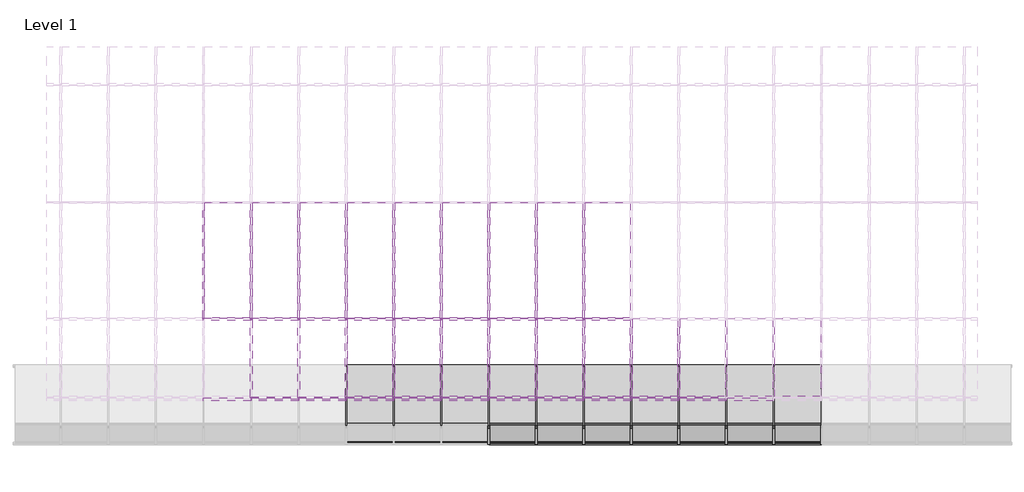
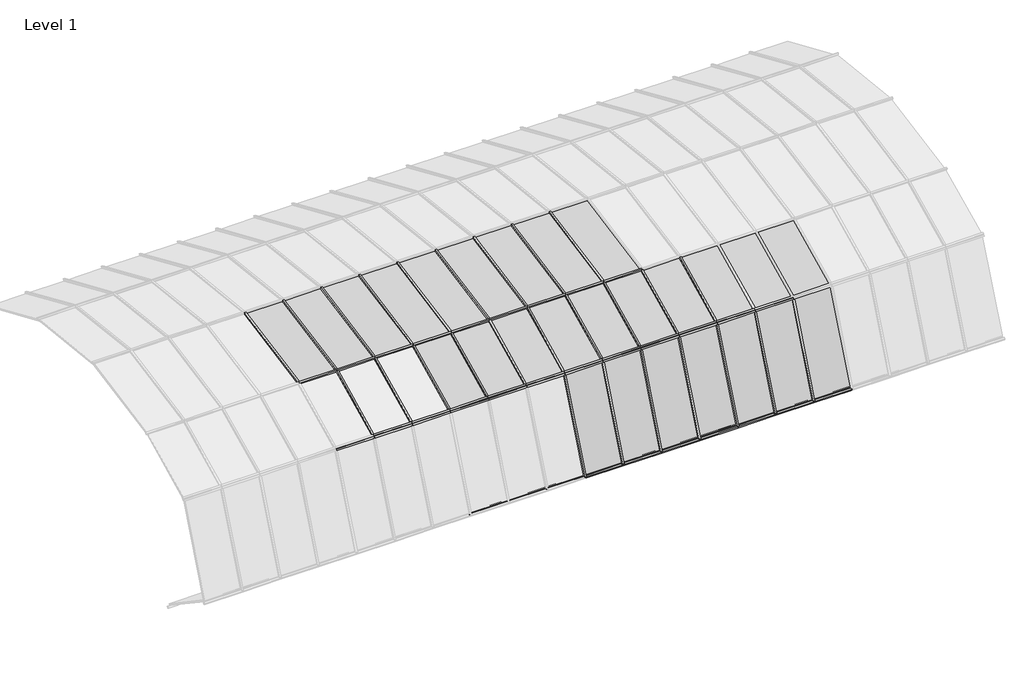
# One storey, part 18 of 23: 84 members, 36 plates.
"""IFC4 building model written with IfcOpenShell, lengths in millimetres."""

from ifc_helpers import new_model, si_unit, origin, place, context, project, spatial, transform, mapped, element, save
from components import member_68981e21, member_3e1f1dd8, member_0f8f75f6, member_42213d33, member_14e241b9, member_309acb9e, system_panel_glazed_51f493bd, system_panel_glazed_6e806f8e, system_panel_glazed_a1f64e1d, system_panel_glazed_3957fabc

model = new_model("IFC4")

# Units and contexts
model_context = context("Model", 3, world=origin())
ifc_project = project(units=[si_unit("LENGTHUNIT", "METRE", prefix="MILLI")], contexts=[model_context])

# Site, building, storey
site = spatial("IfcSite", under=ifc_project)
building = spatial("IfcBuilding", under=site)
storey = spatial("IfcBuildingStorey", under=building, Name="Level 1", Elevation=0.0)

# Members
placement = place(None, origin())
member_shape = member_68981e21(model_context)
element("IfcMember", 1, ObjectType="Rectangular Mullion : 1\" Square", at=placement, inside=storey, context=model_context, shape_type="MappedRepresentation", body=[
    mapped(member_shape, transform((-4426.5499814, 2539.8807303, 0.0), x_axis=(0.0, 0.8307182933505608, -0.5566930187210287), y_axis=(0.0, -0.5566930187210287, -0.8307182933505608), z_axis=(-1.0, 0.0, 0.0))),
])
element("IfcMember", 2, ObjectType="Rectangular Mullion : 1\" Square", at=placement, inside=storey, context=model_context, shape_type="MappedRepresentation", body=[
    mapped(member_shape, transform((-3816.9499814, 2539.8807303, 0.0), x_axis=(0.0, 0.8307182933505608, -0.5566930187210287), y_axis=(0.0, -0.5566930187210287, -0.8307182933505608), z_axis=(-1.0, 0.0, 0.0))),
])
element("IfcMember", 3, ObjectType="Rectangular Mullion : 1\" Square", at=placement, inside=storey, context=model_context, shape_type="MappedRepresentation", body=[
    mapped(member_shape, transform((-3207.3499814, 2539.8807303, 0.0), x_axis=(0.0, 0.8307182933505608, -0.5566930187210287), y_axis=(0.0, -0.5566930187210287, -0.8307182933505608), z_axis=(-1.0, 0.0, 0.0))),
])
element("IfcMember", 4, ObjectType="Rectangular Mullion : 1\" Square", at=placement, inside=storey, context=model_context, shape_type="MappedRepresentation", body=[
    mapped(member_shape, transform((-2597.7499814, 2539.8807303, 0.0), x_axis=(0.0, 0.8307182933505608, -0.5566930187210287), y_axis=(0.0, -0.5566930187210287, -0.8307182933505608), z_axis=(-1.0, 0.0, 0.0))),
])
element("IfcMember", 5, ObjectType="Rectangular Mullion : 1\" Square", at=placement, inside=storey, context=model_context, shape_type="MappedRepresentation", body=[
    mapped(member_shape, transform((-1988.1499814, 2539.8807303, 0.0), x_axis=(0.0, 0.8307182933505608, -0.5566930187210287), y_axis=(0.0, -0.5566930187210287, -0.8307182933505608), z_axis=(-1.0, 0.0, 0.0))),
])
element("IfcMember", 6, ObjectType="Rectangular Mullion : 1\" Square", at=placement, inside=storey, context=model_context, shape_type="MappedRepresentation", body=[
    mapped(member_shape, transform((-1378.5499814, 2539.8807303, 0.0), x_axis=(0.0, 0.8307182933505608, -0.5566930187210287), y_axis=(0.0, -0.5566930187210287, -0.8307182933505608), z_axis=(-1.0, 0.0, 0.0))),
])
element("IfcMember", 7, ObjectType="Rectangular Mullion : 1\" Square", at=placement, inside=storey, context=model_context, shape_type="MappedRepresentation", body=[
    mapped(member_shape, transform((-768.9499814, 2539.8807303, 0.0), x_axis=(0.0, 0.8307182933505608, -0.5566930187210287), y_axis=(0.0, -0.5566930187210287, -0.8307182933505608), z_axis=(-1.0, 0.0, 0.0))),
])
element("IfcMember", 8, ObjectType="Rectangular Mullion : 1\" Square", at=placement, inside=storey, context=model_context, shape_type="MappedRepresentation", body=[
    mapped(member_shape, transform((-159.3499814, 2539.8807303, 0.0), x_axis=(0.0, 0.8307182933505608, -0.5566930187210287), y_axis=(0.0, -0.5566930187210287, -0.8307182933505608), z_axis=(-1.0, 0.0, 0.0))),
])
element("IfcMember", 9, ObjectType="Rectangular Mullion : 1\" Square", at=placement, inside=storey, context=model_context, shape_type="MappedRepresentation", body=[
    mapped(member_shape, transform((-5645.7499814, 2539.8807303, 0.0), x_axis=(0.0, 0.8307182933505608, -0.5566930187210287), y_axis=(0.0, -0.5566930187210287, -0.8307182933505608), z_axis=(-1.0, 0.0, 0.0))),
])
element("IfcMember", 10, ObjectType="Rectangular Mullion : 1\" Square", at=placement, inside=storey, context=model_context, shape_type="MappedRepresentation", body=[
    mapped(member_shape, transform((-5036.1499814, 2539.8807303, 0.0), x_axis=(0.0, 0.8307182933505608, -0.5566930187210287), y_axis=(0.0, -0.5566930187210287, -0.8307182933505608), z_axis=(-1.0, 0.0, 0.0))),
])
element("IfcMember", 11, ObjectType="Rectangular Mullion : 1\" Square", at=placement, inside=storey, context=model_context, shape_type="MappedRepresentation", body=[
    mapped(member_shape, transform((-6864.9499814, 2108.5088854, 2085.6089632), x_axis=(0.0, -0.9009025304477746, -0.4340214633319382), y_axis=(0.0, -0.4340214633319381, 0.9009025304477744), z_axis=(-1.0, 0.0, 0.0))),
])
element("IfcMember", 12, ObjectType="Rectangular Mullion : 1\" Square", at=placement, inside=storey, context=model_context, shape_type="MappedRepresentation", body=[
    mapped(member_shape, transform((-6255.3499814, 2108.5088854, 2085.6089632), x_axis=(0.0, -0.9009025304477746, -0.4340214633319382), y_axis=(0.0, -0.4340214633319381, 0.9009025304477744), z_axis=(-1.0, 0.0, 0.0))),
])
element("IfcMember", 13, ObjectType="Rectangular Mullion : 1\" Square", at=placement, inside=storey, context=model_context, shape_type="MappedRepresentation", body=[
    mapped(member_shape, transform((-5645.7499814, 2108.5088854, 2085.6089632), x_axis=(0.0, -0.9009025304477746, -0.4340214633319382), y_axis=(0.0, -0.4340214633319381, 0.9009025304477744), z_axis=(-1.0, 0.0, 0.0))),
])
element("IfcMember", 14, ObjectType="Rectangular Mullion : 1\" Square", at=placement, inside=storey, context=model_context, shape_type="MappedRepresentation", body=[
    mapped(member_shape, transform((-5036.1499814, 2108.5088854, 2085.6089632), x_axis=(0.0, -0.9009025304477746, -0.4340214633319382), y_axis=(0.0, -0.4340214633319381, 0.9009025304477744), z_axis=(-1.0, 0.0, 0.0))),
])
element("IfcMember", 15, ObjectType="Rectangular Mullion : 1\" Square", at=placement, inside=storey, context=model_context, shape_type="MappedRepresentation", body=[
    mapped(member_shape, transform((-4426.5499814, 2108.5088854, 2085.6089632), x_axis=(0.0, -0.9009025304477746, -0.4340214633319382), y_axis=(0.0, -0.4340214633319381, 0.9009025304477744), z_axis=(-1.0, 0.0, 0.0))),
])
element("IfcMember", 16, ObjectType="Rectangular Mullion : 1\" Square", at=placement, inside=storey, context=model_context, shape_type="MappedRepresentation", body=[
    mapped(member_shape, transform((-3816.9499814, 2108.5088854, 2085.6089632), x_axis=(0.0, -0.9009025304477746, -0.4340214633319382), y_axis=(0.0, -0.4340214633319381, 0.9009025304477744), z_axis=(-1.0, 0.0, 0.0))),
])
element("IfcMember", 17, ObjectType="Rectangular Mullion : 1\" Square", at=placement, inside=storey, context=model_context, shape_type="MappedRepresentation", body=[
    mapped(member_shape, transform((-3207.3499814, 2108.5088854, 2085.6089632), x_axis=(0.0, -0.9009025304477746, -0.4340214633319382), y_axis=(0.0, -0.4340214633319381, 0.9009025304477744), z_axis=(-1.0, 0.0, 0.0))),
])
element("IfcMember", 18, ObjectType="Rectangular Mullion : 1\" Square", at=placement, inside=storey, context=model_context, shape_type="MappedRepresentation", body=[
    mapped(member_shape, transform((-2597.7499814, 2108.5088854, 2085.6089632), x_axis=(0.0, -0.9009025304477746, -0.4340214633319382), y_axis=(0.0, -0.4340214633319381, 0.9009025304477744), z_axis=(-1.0, 0.0, 0.0))),
])
element("IfcMember", 19, ObjectType="Rectangular Mullion : 1\" Square", at=placement, inside=storey, context=model_context, shape_type="MappedRepresentation", body=[
    mapped(member_shape, transform((-1988.1499814, 2108.5088854, 2085.6089632), x_axis=(0.0, -0.9009025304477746, -0.4340214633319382), y_axis=(0.0, -0.4340214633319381, 0.9009025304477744), z_axis=(-1.0, 0.0, 0.0))),
])
element("IfcMember", 20, ObjectType="Rectangular Mullion : 1\" Square", at=placement, inside=storey, context=model_context, shape_type="MappedRepresentation", body=[
    mapped(member_shape, transform((-1378.5499814, 2108.5088854, 2085.6089632), x_axis=(0.0, -0.9009025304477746, -0.4340214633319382), y_axis=(0.0, -0.4340214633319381, 0.9009025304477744), z_axis=(-1.0, 0.0, 0.0))),
])
member_2_shape = member_3e1f1dd8(model_context)
element("IfcMember", 21, ObjectType="Rectangular Mullion : 1\" Square", at=placement, inside=storey, context=model_context, shape_type="MappedRepresentation", body=[
    mapped(member_2_shape, transform((-3816.9499814, 1534.1192339, 673.9955146), x_axis=(0.0, 0.38018576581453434, -0.9249101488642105), y_axis=(0.0, -0.9249101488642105, -0.38018576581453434), z_axis=(-1.0, 0.0, 0.0))),
])
element("IfcMember", 22, ObjectType="Rectangular Mullion : 1\" Square", at=placement, inside=storey, context=model_context, shape_type="MappedRepresentation", body=[
    mapped(member_2_shape, transform((-3207.3499814, 1534.1192339, 673.9955146), x_axis=(0.0, 0.38018576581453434, -0.9249101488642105), y_axis=(0.0, -0.9249101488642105, -0.38018576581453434), z_axis=(-1.0, 0.0, 0.0))),
])
element("IfcMember", 23, ObjectType="Rectangular Mullion : 1\" Square", at=placement, inside=storey, context=model_context, shape_type="MappedRepresentation", body=[
    mapped(member_2_shape, transform((-2597.7499814, 1534.1192339, 673.9955146), x_axis=(0.0, 0.38018576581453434, -0.9249101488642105), y_axis=(0.0, -0.9249101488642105, -0.38018576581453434), z_axis=(-1.0, 0.0, 0.0))),
])
element("IfcMember", 24, ObjectType="Rectangular Mullion : 1\" Square", at=placement, inside=storey, context=model_context, shape_type="MappedRepresentation", body=[
    mapped(member_2_shape, transform((-1988.1499814, 1534.1192339, 673.9955146), x_axis=(0.0, 0.38018576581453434, -0.9249101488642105), y_axis=(0.0, -0.9249101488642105, -0.38018576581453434), z_axis=(-1.0, 0.0, 0.0))),
])
element("IfcMember", 25, ObjectType="Rectangular Mullion : 1\" Square", at=placement, inside=storey, context=model_context, shape_type="MappedRepresentation", body=[
    mapped(member_2_shape, transform((-1378.5499814, 1534.1192339, 673.9955146), x_axis=(0.0, 0.38018576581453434, -0.9249101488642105), y_axis=(0.0, -0.9249101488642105, -0.38018576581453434), z_axis=(-1.0, 0.0, 0.0))),
])
element("IfcMember", 26, ObjectType="Rectangular Mullion : 1\" Square", at=placement, inside=storey, context=model_context, shape_type="MappedRepresentation", body=[
    mapped(member_2_shape, transform((-768.9499814, 1534.1192339, 673.9955146), x_axis=(0.0, 0.38018576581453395, -0.9249101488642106), y_axis=(0.0, -0.9249101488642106, -0.38018576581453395), z_axis=(-1.0, 0.0, 0.0))),
])
element("IfcMember", 27, ObjectType="Rectangular Mullion : 1\" Square", at=placement, inside=storey, context=model_context, shape_type="MappedRepresentation", body=[
    mapped(member_2_shape, transform((-159.3499814, 1534.1192339, 673.9955146), x_axis=(0.0, 0.38018576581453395, -0.9249101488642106), y_axis=(0.0, -0.9249101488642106, -0.38018576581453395), z_axis=(-1.0, 0.0, 0.0))),
])
element("IfcMember", 28, ObjectType="Rectangular Mullion : 1\" Square", at=placement, inside=storey, context=model_context, shape_type="MappedRepresentation", body=[
    mapped(member_2_shape, transform((-7474.5499814, 3134.3722562, 2579.8319299), x_axis=(0.0, -0.9436447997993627, -0.33095995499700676), y_axis=(0.0, -0.33095995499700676, 0.9436447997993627), z_axis=(-1.0, 0.0, 0.0))),
])
element("IfcMember", 29, ObjectType="Rectangular Mullion : 1\" Square", at=placement, inside=storey, context=model_context, shape_type="MappedRepresentation", body=[
    mapped(member_2_shape, transform((-6864.9499814, 3134.3722562, 2579.8319299), x_axis=(0.0, -0.9436447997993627, -0.33095995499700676), y_axis=(0.0, -0.33095995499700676, 0.9436447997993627), z_axis=(-1.0, 0.0, 0.0))),
])
element("IfcMember", 30, ObjectType="Rectangular Mullion : 1\" Square", at=placement, inside=storey, context=model_context, shape_type="MappedRepresentation", body=[
    mapped(member_2_shape, transform((-6255.3499814, 3134.3722562, 2579.8319299), x_axis=(0.0, -0.9436447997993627, -0.33095995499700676), y_axis=(0.0, -0.33095995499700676, 0.9436447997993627), z_axis=(-1.0, 0.0, 0.0))),
])
element("IfcMember", 31, ObjectType="Rectangular Mullion : 1\" Square", at=placement, inside=storey, context=model_context, shape_type="MappedRepresentation", body=[
    mapped(member_2_shape, transform((-5645.7499814, 3134.3722562, 2579.8319299), x_axis=(0.0, -0.9436447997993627, -0.33095995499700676), y_axis=(0.0, -0.33095995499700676, 0.9436447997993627), z_axis=(-1.0, 0.0, 0.0))),
])
element("IfcMember", 32, ObjectType="Rectangular Mullion : 1\" Square", at=placement, inside=storey, context=model_context, shape_type="MappedRepresentation", body=[
    mapped(member_2_shape, transform((-5036.1499814, 3134.3722562, 2579.8319299), x_axis=(0.0, -0.9436447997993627, -0.33095995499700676), y_axis=(0.0, -0.33095995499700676, 0.9436447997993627), z_axis=(-1.0, 0.0, 0.0))),
])
element("IfcMember", 33, ObjectType="Rectangular Mullion : 1\" Square", at=placement, inside=storey, context=model_context, shape_type="MappedRepresentation", body=[
    mapped(member_2_shape, transform((-4426.5499814, 3134.3722562, 2579.8319299), x_axis=(0.0, -0.9436447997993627, -0.33095995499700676), y_axis=(0.0, -0.33095995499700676, 0.9436447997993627), z_axis=(-1.0, 0.0, 0.0))),
])
element("IfcMember", 34, ObjectType="Rectangular Mullion : 1\" Square", at=placement, inside=storey, context=model_context, shape_type="MappedRepresentation", body=[
    mapped(member_2_shape, transform((-3816.9499814, 3134.3722562, 2579.8319299), x_axis=(0.0, -0.9436447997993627, -0.33095995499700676), y_axis=(0.0, -0.33095995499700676, 0.9436447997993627), z_axis=(-1.0, 0.0, 0.0))),
])
element("IfcMember", 35, ObjectType="Rectangular Mullion : 1\" Square", at=placement, inside=storey, context=model_context, shape_type="MappedRepresentation", body=[
    mapped(member_2_shape, transform((-3207.3499814, 3134.3722562, 2579.8319299), x_axis=(0.0, -0.9436447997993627, -0.33095995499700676), y_axis=(0.0, -0.33095995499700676, 0.9436447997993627), z_axis=(-1.0, 0.0, 0.0))),
])
element("IfcMember", 36, ObjectType="Rectangular Mullion : 1\" Square", at=placement, inside=storey, context=model_context, shape_type="MappedRepresentation", body=[
    mapped(member_2_shape, transform((-2597.7499814, 3134.3722562, 2579.8319299), x_axis=(0.0, -0.9436447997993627, -0.33095995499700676), y_axis=(0.0, -0.33095995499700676, 0.9436447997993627), z_axis=(-1.0, 0.0, 0.0))),
])
element("IfcMember", 37, ObjectType="Rectangular Mullion : 1\" Square", at=placement, inside=storey, context=model_context, shape_type="MappedRepresentation", body=[
    mapped(member_shape, transform((-1988.1499814, 2108.5088854, 2085.6089632), x_axis=(0.0, 0.37689609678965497, 0.9262555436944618), y_axis=(0.0, -0.9262555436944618, 0.37689609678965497), z_axis=(1.0, 0.0, 0.0))),
])
element("IfcMember", 38, ObjectType="Rectangular Mullion : 1\" Square", at=placement, inside=storey, context=model_context, shape_type="MappedRepresentation", body=[
    mapped(member_shape, transform((-1378.5499814, 2108.5088854, 2085.6089632), x_axis=(0.0, 0.37689609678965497, 0.9262555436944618), y_axis=(0.0, -0.9262555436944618, 0.37689609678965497), z_axis=(1.0, 0.0, 0.0))),
])
element("IfcMember", 39, ObjectType="Rectangular Mullion : 1\" Square", at=placement, inside=storey, context=model_context, shape_type="MappedRepresentation", body=[
    mapped(member_shape, transform((-768.9499814, 2108.5088854, 2085.6089632), x_axis=(0.0, 0.37689609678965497, 0.9262555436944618), y_axis=(0.0, -0.9262555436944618, 0.37689609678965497), z_axis=(1.0, 0.0, 0.0))),
])
element("IfcMember", 40, ObjectType="Rectangular Mullion : 1\" Square", at=placement, inside=storey, context=model_context, shape_type="MappedRepresentation", body=[
    mapped(member_shape, transform((-159.3499814, 2108.5088854, 2085.6089632), x_axis=(0.0, 0.37689609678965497, 0.9262555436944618), y_axis=(0.0, -0.9262555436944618, 0.37689609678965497), z_axis=(1.0, 0.0, 0.0))),
])
element("IfcMember", 41, ObjectType="Rectangular Mullion : 1\" Square", at=placement, inside=storey, context=model_context, shape_type="MappedRepresentation", body=[
    mapped(member_shape, transform((-6864.9499814, 2108.5088854, 2085.6089632), x_axis=(0.0, 0.37689609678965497, 0.9262555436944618), y_axis=(0.0, -0.9262555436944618, 0.37689609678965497), z_axis=(1.0, 0.0, 0.0))),
])
element("IfcMember", 42, ObjectType="Rectangular Mullion : 1\" Square", at=placement, inside=storey, context=model_context, shape_type="MappedRepresentation", body=[
    mapped(member_shape, transform((-6255.3499814, 2108.5088854, 2085.6089632), x_axis=(0.0, 0.37689609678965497, 0.9262555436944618), y_axis=(0.0, -0.9262555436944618, 0.37689609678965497), z_axis=(1.0, 0.0, 0.0))),
])
element("IfcMember", 43, ObjectType="Rectangular Mullion : 1\" Square", at=placement, inside=storey, context=model_context, shape_type="MappedRepresentation", body=[
    mapped(member_shape, transform((-5645.7499814, 2108.5088854, 2085.6089632), x_axis=(0.0, 0.37689609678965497, 0.9262555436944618), y_axis=(0.0, -0.9262555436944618, 0.37689609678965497), z_axis=(1.0, 0.0, 0.0))),
])
element("IfcMember", 44, ObjectType="Rectangular Mullion : 1\" Square", at=placement, inside=storey, context=model_context, shape_type="MappedRepresentation", body=[
    mapped(member_shape, transform((-5036.1499814, 2108.5088854, 2085.6089632), x_axis=(0.0, 0.37689609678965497, 0.9262555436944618), y_axis=(0.0, -0.9262555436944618, 0.37689609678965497), z_axis=(1.0, 0.0, 0.0))),
])
element("IfcMember", 45, ObjectType="Rectangular Mullion : 1\" Square", at=placement, inside=storey, context=model_context, shape_type="MappedRepresentation", body=[
    mapped(member_shape, transform((-4426.5499814, 2108.5088854, 2085.6089632), x_axis=(0.0, 0.37689609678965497, 0.9262555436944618), y_axis=(0.0, -0.9262555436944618, 0.37689609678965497), z_axis=(1.0, 0.0, 0.0))),
])
element("IfcMember", 46, ObjectType="Rectangular Mullion : 1\" Square", at=placement, inside=storey, context=model_context, shape_type="MappedRepresentation", body=[
    mapped(member_shape, transform((-3816.9499814, 2108.5088854, 2085.6089632), x_axis=(0.0, 0.3768960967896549, 0.9262555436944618), y_axis=(0.0, -0.9262555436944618, 0.3768960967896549), z_axis=(1.0, 0.0, 0.0))),
])
element("IfcMember", 47, ObjectType="Rectangular Mullion : 1\" Square", at=placement, inside=storey, context=model_context, shape_type="MappedRepresentation", body=[
    mapped(member_shape, transform((-3207.3499814, 2108.5088854, 2085.6089632), x_axis=(0.0, 0.37689609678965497, 0.9262555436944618), y_axis=(0.0, -0.9262555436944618, 0.37689609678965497), z_axis=(1.0, 0.0, 0.0))),
])
element("IfcMember", 48, ObjectType="Rectangular Mullion : 1\" Square", at=placement, inside=storey, context=model_context, shape_type="MappedRepresentation", body=[
    mapped(member_shape, transform((-2597.7499814, 2108.5088854, 2085.6089632), x_axis=(0.0, 0.37689609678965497, 0.9262555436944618), y_axis=(0.0, -0.9262555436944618, 0.37689609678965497), z_axis=(1.0, 0.0, 0.0))),
])
member_3_shape = member_0f8f75f6(model_context)
element("IfcMember", 49, ObjectType="Rectangular Mullion : 1\" Square", at=placement, inside=storey, context=model_context, shape_type="MappedRepresentation", body=[
    mapped(member_3_shape, transform((-159.3499814, 2518.7804857, 14.1400027), x_axis=(0.9999999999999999, 0.0, 0.0), y_axis=(0.0, -0.5566930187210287, -0.8307182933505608), z_axis=(0.0, 0.8307182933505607, -0.5566930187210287))),
])
element("IfcMember", 50, ObjectType="Rectangular Mullion : 1\" Square", at=placement, inside=storey, context=model_context, shape_type="MappedRepresentation", body=[
    mapped(member_3_shape, transform((-3816.9499814, 2518.7804857, 14.1400027), x_axis=(1.0, 0.0, 0.0), y_axis=(0.0, -0.5566930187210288, -0.8307182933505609), z_axis=(0.0, 0.8307182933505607, -0.5566930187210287))),
])
element("IfcMember", 51, ObjectType="Rectangular Mullion : 1\" Square", at=placement, inside=storey, context=model_context, shape_type="MappedRepresentation", body=[
    mapped(member_3_shape, transform((-3207.3499814, 2518.7804857, 14.1400027), x_axis=(1.0, 0.0, 0.0), y_axis=(0.0, -0.5566930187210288, -0.8307182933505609), z_axis=(0.0, 0.8307182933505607, -0.5566930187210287))),
])
element("IfcMember", 52, ObjectType="Rectangular Mullion : 1\" Square", at=placement, inside=storey, context=model_context, shape_type="MappedRepresentation", body=[
    mapped(member_3_shape, transform((-2597.7499814, 2518.7804857, 14.1400027), x_axis=(1.0, 0.0, 0.0), y_axis=(0.0, -0.5566930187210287, -0.8307182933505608), z_axis=(0.0, 0.8307182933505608, -0.5566930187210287))),
])
element("IfcMember", 53, ObjectType="Rectangular Mullion : 1\" Square", at=placement, inside=storey, context=model_context, shape_type="MappedRepresentation", body=[
    mapped(member_3_shape, transform((-1988.1499814, 2518.7804857, 14.1400027), x_axis=(1.0, 0.0, 0.0), y_axis=(0.0, -0.5566930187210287, -0.8307182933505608), z_axis=(0.0, 0.8307182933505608, -0.5566930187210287))),
])
element("IfcMember", 54, ObjectType="Rectangular Mullion : 1\" Square", at=placement, inside=storey, context=model_context, shape_type="MappedRepresentation", body=[
    mapped(member_3_shape, transform((-1378.5499814, 2518.7804857, 14.1400027), x_axis=(1.0, 0.0, 0.0), y_axis=(0.0, -0.5566930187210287, -0.8307182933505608), z_axis=(0.0, 0.8307182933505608, -0.5566930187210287))),
])
element("IfcMember", 55, ObjectType="Rectangular Mullion : 1\" Square", at=placement, inside=storey, context=model_context, shape_type="MappedRepresentation", body=[
    mapped(member_3_shape, transform((-768.9499814, 2518.7804857, 14.1400027), x_axis=(0.9999999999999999, 0.0, 0.0), y_axis=(0.0, -0.5566930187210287, -0.8307182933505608), z_axis=(0.0, 0.8307182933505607, -0.5566930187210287))),
])
element("IfcMember", 56, ObjectType="Rectangular Mullion : 1\" Square", at=placement, inside=storey, context=model_context, shape_type="MappedRepresentation", body=[
    mapped(member_3_shape, transform((-5645.7499814, 2518.7804857, 14.1400027), x_axis=(1.0, 0.0, 0.0), y_axis=(0.0, -0.5566930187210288, -0.8307182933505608), z_axis=(0.0, 0.8307182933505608, -0.5566930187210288))),
])
element("IfcMember", 57, ObjectType="Rectangular Mullion : 1\" Square", at=placement, inside=storey, context=model_context, shape_type="MappedRepresentation", body=[
    mapped(member_3_shape, transform((-5036.1499814, 2518.7804857, 14.1400027), x_axis=(1.0, 0.0, 0.0), y_axis=(0.0, -0.5566930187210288, -0.8307182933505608), z_axis=(0.0, 0.8307182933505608, -0.5566930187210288))),
])
element("IfcMember", 58, ObjectType="Rectangular Mullion : 1\" Square", at=placement, inside=storey, context=model_context, shape_type="MappedRepresentation", body=[
    mapped(member_3_shape, transform((-4426.5499814, 2518.7804857, 14.1400027), x_axis=(1.0, 0.0, 0.0), y_axis=(0.0, -0.5566930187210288, -0.8307182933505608), z_axis=(0.0, 0.8307182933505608, -0.5566930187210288))),
])
member_4_shape = member_42213d33(model_context)
element("IfcMember", 59, ObjectType="Rectangular Mullion : 1\" Square", at=placement, inside=storey, context=model_context, shape_type="MappedRepresentation", body=[
    mapped(member_4_shape, transform((-159.3499814, 1538.9058143, 685.75896), x_axis=(0.9999999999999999, 0.0, 0.0), y_axis=(0.0, -0.926255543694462, 0.376896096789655), z_axis=(0.0, -0.37689609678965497, -0.9262555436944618))),
])
element("IfcMember", 60, ObjectType="Rectangular Mullion : 1\" Square", at=placement, inside=storey, context=model_context, shape_type="MappedRepresentation", body=[
    mapped(member_4_shape, transform((-3207.3499814, 1538.9058143, 685.75896), x_axis=(1.0, 0.0, 0.0), y_axis=(0.0, -0.926255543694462, 0.3768960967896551), z_axis=(0.0, -0.37689609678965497, -0.9262555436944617))),
])
element("IfcMember", 61, ObjectType="Rectangular Mullion : 1\" Square", at=placement, inside=storey, context=model_context, shape_type="MappedRepresentation", body=[
    mapped(member_4_shape, transform((-2597.7499814, 1538.9058143, 685.75896), x_axis=(1.0, 0.0, 0.0), y_axis=(0.0, -0.926255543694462, 0.3768960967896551), z_axis=(0.0, -0.37689609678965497, -0.9262555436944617))),
])
element("IfcMember", 62, ObjectType="Rectangular Mullion : 1\" Square", at=placement, inside=storey, context=model_context, shape_type="MappedRepresentation", body=[
    mapped(member_4_shape, transform((-1988.1499814, 1538.9058143, 685.75896), x_axis=(1.0, 0.0, 0.0), y_axis=(0.0, -0.926255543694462, 0.3768960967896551), z_axis=(0.0, -0.37689609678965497, -0.9262555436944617))),
])
element("IfcMember", 63, ObjectType="Rectangular Mullion : 1\" Square", at=placement, inside=storey, context=model_context, shape_type="MappedRepresentation", body=[
    mapped(member_4_shape, transform((-1378.5499814, 1538.9058143, 685.75896), x_axis=(1.0, 0.0, 0.0), y_axis=(0.0, -0.926255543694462, 0.3768960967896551), z_axis=(0.0, -0.37689609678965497, -0.9262555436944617))),
])
element("IfcMember", 64, ObjectType="Rectangular Mullion : 1\" Square", at=placement, inside=storey, context=model_context, shape_type="MappedRepresentation", body=[
    mapped(member_4_shape, transform((-768.9499814, 1538.9058143, 685.75896), x_axis=(0.9999999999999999, 0.0, 0.0), y_axis=(0.0, -0.926255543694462, 0.376896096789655), z_axis=(0.0, -0.37689609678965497, -0.9262555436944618))),
])
element("IfcMember", 65, ObjectType="Rectangular Mullion : 1\" Square", at=placement, inside=storey, context=model_context, shape_type="MappedRepresentation", body=[
    mapped(member_4_shape, transform((-3816.9499814, 1538.9058143, 685.75896), x_axis=(1.0, 0.0, 0.0), y_axis=(0.0, -0.9262555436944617, 0.37689609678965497), z_axis=(0.0, -0.3768960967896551, -0.926255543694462))),
])
member_5_shape = member_14e241b9(model_context)
element("IfcMember", 66, ObjectType="Rectangular Mullion : 1\" Square", at=placement, inside=storey, context=model_context, shape_type="MappedRepresentation", body=[
    mapped(member_5_shape, transform((-2597.7499814, 2131.3918096, 2096.6331083), x_axis=(1.0, 0.0, 0.0), y_axis=(0.0, -0.4340214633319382, 0.9009025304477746), z_axis=(0.0, -0.9009025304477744, -0.4340214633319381))),
])
element("IfcMember", 67, ObjectType="Rectangular Mullion : 1\" Square", at=placement, inside=storey, context=model_context, shape_type="MappedRepresentation", body=[
    mapped(member_5_shape, transform((-1988.1499814, 2131.3918096, 2096.6331083), x_axis=(1.0, 0.0, 0.0), y_axis=(0.0, -0.4340214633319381, 0.9009025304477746), z_axis=(0.0, -0.9009025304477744, -0.434021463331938))),
])
element("IfcMember", 68, ObjectType="Rectangular Mullion : 1\" Square", at=placement, inside=storey, context=model_context, shape_type="MappedRepresentation", body=[
    mapped(member_5_shape, transform((-1378.5499814, 2131.3918096, 2096.6331083), x_axis=(1.0, 0.0, 0.0), y_axis=(0.0, -0.4340214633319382, 0.9009025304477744), z_axis=(0.0, -0.9009025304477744, -0.4340214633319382))),
])
element("IfcMember", 69, ObjectType="Rectangular Mullion : 1\" Square", at=placement, inside=storey, context=model_context, shape_type="MappedRepresentation", body=[
    mapped(member_5_shape, transform((-5645.7499814, 2131.3918096, 2096.6331083), x_axis=(1.0, 0.0, 0.0), y_axis=(0.0, -0.4340214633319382, 0.9009025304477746), z_axis=(0.0, -0.9009025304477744, -0.4340214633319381))),
])
element("IfcMember", 70, ObjectType="Rectangular Mullion : 1\" Square", at=placement, inside=storey, context=model_context, shape_type="MappedRepresentation", body=[
    mapped(member_5_shape, transform((-5036.1499814, 2131.3918096, 2096.6331083), x_axis=(1.0, 0.0, 0.0), y_axis=(0.0, -0.4340214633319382, 0.9009025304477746), z_axis=(0.0, -0.9009025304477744, -0.4340214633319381))),
])
element("IfcMember", 71, ObjectType="Rectangular Mullion : 1\" Square", at=placement, inside=storey, context=model_context, shape_type="MappedRepresentation", body=[
    mapped(member_5_shape, transform((-4426.5499814, 2131.3918096, 2096.6331083), x_axis=(1.0, 0.0, 0.0), y_axis=(0.0, -0.4340214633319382, 0.9009025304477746), z_axis=(0.0, -0.9009025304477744, -0.4340214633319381))),
])
element("IfcMember", 72, ObjectType="Rectangular Mullion : 1\" Square", at=placement, inside=storey, context=model_context, shape_type="MappedRepresentation", body=[
    mapped(member_5_shape, transform((-3816.9499814, 2131.3918096, 2096.6331083), x_axis=(1.0, 0.0, 0.0), y_axis=(0.0, -0.4340214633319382, 0.9009025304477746), z_axis=(0.0, -0.9009025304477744, -0.4340214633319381))),
])
element("IfcMember", 73, ObjectType="Rectangular Mullion : 1\" Square", at=placement, inside=storey, context=model_context, shape_type="MappedRepresentation", body=[
    mapped(member_5_shape, transform((-3207.3499814, 2131.3918096, 2096.6331083), x_axis=(1.0, 0.0, 0.0), y_axis=(0.0, -0.4340214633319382, 0.9009025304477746), z_axis=(0.0, -0.9009025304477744, -0.4340214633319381))),
])
element("IfcMember", 74, ObjectType="Rectangular Mullion : 1\" Square", at=placement, inside=storey, context=model_context, shape_type="MappedRepresentation", body=[
    mapped(member_5_shape, transform((-6864.9499814, 2131.3918096, 2096.6331083), x_axis=(1.0, 0.0, 0.0), y_axis=(0.0, -0.43402146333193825, 0.9009025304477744), z_axis=(0.0, -0.9009025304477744, -0.43402146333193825))),
])
element("IfcMember", 75, ObjectType="Rectangular Mullion : 1\" Square", at=placement, inside=storey, context=model_context, shape_type="MappedRepresentation", body=[
    mapped(member_5_shape, transform((-6255.3499814, 2131.3918096, 2096.6331083), x_axis=(1.0, 0.0, 0.0), y_axis=(0.0, -0.4340214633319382, 0.9009025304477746), z_axis=(0.0, -0.9009025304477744, -0.4340214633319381))),
])
member_6_shape = member_309acb9e(model_context)
element("IfcMember", 76, ObjectType="Rectangular Mullion : 1\" Square", at=placement, inside=storey, context=model_context, shape_type="MappedRepresentation", body=[
    mapped(member_6_shape, transform((-5645.7499814, 3146.8492645, 2582.2013738), x_axis=(1.0, 0.0, 0.0), y_axis=(0.0, -0.18657038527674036, 0.9824415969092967), z_axis=(0.0, -0.9824415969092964, -0.18657038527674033))),
])
element("IfcMember", 77, ObjectType="Rectangular Mullion : 1\" Square", at=placement, inside=storey, context=model_context, shape_type="MappedRepresentation", body=[
    mapped(member_6_shape, transform((-5036.1499814, 3146.8492645, 2582.2013738), x_axis=(1.0, 0.0, 0.0), y_axis=(0.0, -0.18657038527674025, 0.9824415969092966), z_axis=(0.0, -0.9824415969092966, -0.18657038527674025))),
])
element("IfcMember", 78, ObjectType="Rectangular Mullion : 1\" Square", at=placement, inside=storey, context=model_context, shape_type="MappedRepresentation", body=[
    mapped(member_6_shape, transform((-4426.5499814, 3146.8492645, 2582.2013738), x_axis=(1.0, 0.0, 0.0), y_axis=(0.0, -0.18657038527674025, 0.9824415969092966), z_axis=(0.0, -0.9824415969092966, -0.18657038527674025))),
])
element("IfcMember", 79, ObjectType="Rectangular Mullion : 1\" Square", at=placement, inside=storey, context=model_context, shape_type="MappedRepresentation", body=[
    mapped(member_6_shape, transform((-3816.9499814, 3146.8492645, 2582.2013738), x_axis=(1.0, 0.0, 0.0), y_axis=(0.0, -0.18657038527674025, 0.9824415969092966), z_axis=(0.0, -0.9824415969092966, -0.18657038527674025))),
])
element("IfcMember", 80, ObjectType="Rectangular Mullion : 1\" Square", at=placement, inside=storey, context=model_context, shape_type="MappedRepresentation", body=[
    mapped(member_6_shape, transform((-3207.3499814, 3146.8492645, 2582.2013738), x_axis=(1.0, 0.0, 0.0), y_axis=(0.0, -0.18657038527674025, 0.9824415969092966), z_axis=(0.0, -0.9824415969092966, -0.18657038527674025))),
])
element("IfcMember", 81, ObjectType="Rectangular Mullion : 1\" Square", at=placement, inside=storey, context=model_context, shape_type="MappedRepresentation", body=[
    mapped(member_6_shape, transform((-2597.7499814, 3146.8492645, 2582.2013738), x_axis=(1.0, 0.0, 0.0), y_axis=(0.0, -0.18657038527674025, 0.9824415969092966), z_axis=(0.0, -0.9824415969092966, -0.18657038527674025))),
])
element("IfcMember", 82, ObjectType="Rectangular Mullion : 1\" Square", at=placement, inside=storey, context=model_context, shape_type="MappedRepresentation", body=[
    mapped(member_6_shape, transform((-7474.5499814, 3146.8492645, 2582.2013738), x_axis=(1.0, 0.0, 0.0), y_axis=(0.0, -0.18657038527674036, 0.9824415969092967), z_axis=(0.0, -0.9824415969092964, -0.18657038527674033))),
])
element("IfcMember", 83, ObjectType="Rectangular Mullion : 1\" Square", at=placement, inside=storey, context=model_context, shape_type="MappedRepresentation", body=[
    mapped(member_6_shape, transform((-6864.9499814, 3146.8492645, 2582.2013738), x_axis=(1.0, 0.0, 0.0), y_axis=(0.0, -0.18657038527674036, 0.9824415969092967), z_axis=(0.0, -0.9824415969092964, -0.18657038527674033))),
])
element("IfcMember", 84, ObjectType="Rectangular Mullion : 1\" Square", at=placement, inside=storey, context=model_context, shape_type="MappedRepresentation", body=[
    mapped(member_6_shape, transform((-6255.3499814, 3146.8492645, 2582.2013738), x_axis=(1.0, 0.0, 0.0), y_axis=(0.0, -0.18657038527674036, 0.9824415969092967), z_axis=(0.0, -0.9824415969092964, -0.18657038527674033))),
])

# Plates
system_panel_glazed_shape = system_panel_glazed_51f493bd(model_context)
element("IfcPlate", 85, ObjectType="System Panel : Glazed", at=placement, inside=storey, context=model_context, shape_type="MappedRepresentation", body=[
    mapped(system_panel_glazed_shape, transform((-3804.2499814, 1818.9207694, 1373.9205162), x_axis=(0.0, -0.37689609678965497, -0.9262555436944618), y_axis=(0.0, 0.9262555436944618, -0.37689609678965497), z_axis=(1.0, 0.0, 0.0))),
])
element("IfcPlate", 86, ObjectType="System Panel : Glazed", at=placement, inside=storey, context=model_context, shape_type="MappedRepresentation", body=[
    mapped(system_panel_glazed_shape, transform((-3194.6499814, 1818.9207694, 1373.9205162), x_axis=(0.0, -0.37689609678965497, -0.9262555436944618), y_axis=(0.0, 0.9262555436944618, -0.37689609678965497), z_axis=(1.0, 0.0, 0.0))),
])
element("IfcPlate", 87, ObjectType="System Panel : Glazed", at=placement, inside=storey, context=model_context, shape_type="MappedRepresentation", body=[
    mapped(system_panel_glazed_shape, transform((-2585.0499814, 1818.9207694, 1373.9205162), x_axis=(0.0, -0.37689609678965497, -0.9262555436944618), y_axis=(0.0, 0.9262555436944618, -0.37689609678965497), z_axis=(1.0, 0.0, 0.0))),
])
element("IfcPlate", 88, ObjectType="System Panel : Glazed", at=placement, inside=storey, context=model_context, shape_type="MappedRepresentation", body=[
    mapped(system_panel_glazed_shape, transform((-1975.4499814, 1818.9207694, 1373.9205162), x_axis=(0.0, -0.37689609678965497, -0.9262555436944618), y_axis=(0.0, 0.9262555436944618, -0.37689609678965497), z_axis=(1.0, 0.0, 0.0))),
])
element("IfcPlate", 89, ObjectType="System Panel : Glazed", at=placement, inside=storey, context=model_context, shape_type="MappedRepresentation", body=[
    mapped(system_panel_glazed_shape, transform((-1365.8499814, 1818.9207694, 1373.9205162), x_axis=(0.0, -0.37689609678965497, -0.9262555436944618), y_axis=(0.0, 0.9262555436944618, -0.37689609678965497), z_axis=(1.0, 0.0, 0.0))),
])
element("IfcPlate", 90, ObjectType="System Panel : Glazed", at=placement, inside=storey, context=model_context, shape_type="MappedRepresentation", body=[
    mapped(system_panel_glazed_shape, transform((-756.2499814, 1818.9207694, 1373.9205162), x_axis=(0.0, -0.37689609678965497, -0.9262555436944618), y_axis=(0.0, 0.9262555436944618, -0.37689609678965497), z_axis=(1.0, 0.0, 0.0))),
])
element("IfcPlate", 91, ObjectType="System Panel : Glazed", at=placement, inside=storey, context=model_context, shape_type="MappedRepresentation", body=[
    mapped(system_panel_glazed_shape, transform((-146.6499814, 1818.9207694, 1373.9205162), x_axis=(0.0, -0.37689609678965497, -0.9262555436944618), y_axis=(0.0, 0.9262555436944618, -0.37689609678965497), z_axis=(1.0, 0.0, 0.0))),
])
system_panel_glazed_2_shape = system_panel_glazed_6e806f8e(model_context)
element("IfcPlate", 92, ObjectType="System Panel : Glazed", at=placement, inside=storey, context=model_context, shape_type="MappedRepresentation", body=[
    mapped(system_panel_glazed_2_shape, transform((-7461.8499814, 3882.992753, 2721.9985635), x_axis=(0.0, -0.9824415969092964, -0.18657038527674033), y_axis=(0.0, 0.18657038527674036, -0.9824415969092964), z_axis=(1.0, 0.0, 0.0))),
])
element("IfcPlate", 93, ObjectType="System Panel : Glazed", at=placement, inside=storey, context=model_context, shape_type="MappedRepresentation", body=[
    mapped(system_panel_glazed_2_shape, transform((-6852.2499814, 3882.992753, 2721.9985635), x_axis=(0.0, -0.9824415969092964, -0.18657038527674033), y_axis=(0.0, 0.18657038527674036, -0.9824415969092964), z_axis=(1.0, 0.0, 0.0))),
])
element("IfcPlate", 94, ObjectType="System Panel : Glazed", at=placement, inside=storey, context=model_context, shape_type="MappedRepresentation", body=[
    mapped(system_panel_glazed_2_shape, transform((-6242.6499814, 3882.992753, 2721.9985635), x_axis=(0.0, -0.9824415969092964, -0.18657038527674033), y_axis=(0.0, 0.18657038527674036, -0.9824415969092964), z_axis=(1.0, 0.0, 0.0))),
])
element("IfcPlate", 95, ObjectType="System Panel : Glazed", at=placement, inside=storey, context=model_context, shape_type="MappedRepresentation", body=[
    mapped(system_panel_glazed_2_shape, transform((-5633.0499814, 3882.992753, 2721.9985635), x_axis=(0.0, -0.9824415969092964, -0.18657038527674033), y_axis=(0.0, 0.18657038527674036, -0.9824415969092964), z_axis=(1.0, 0.0, 0.0))),
])
element("IfcPlate", 96, ObjectType="System Panel : Glazed", at=placement, inside=storey, context=model_context, shape_type="MappedRepresentation", body=[
    mapped(system_panel_glazed_2_shape, transform((-5023.4499814, 3882.992753, 2721.9985635), x_axis=(0.0, -0.9824415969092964, -0.18657038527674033), y_axis=(0.0, 0.18657038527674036, -0.9824415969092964), z_axis=(1.0, 0.0, 0.0))),
])
element("IfcPlate", 97, ObjectType="System Panel : Glazed", at=placement, inside=storey, context=model_context, shape_type="MappedRepresentation", body=[
    mapped(system_panel_glazed_2_shape, transform((-4413.8499814, 3882.992753, 2721.9985635), x_axis=(0.0, -0.9824415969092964, -0.18657038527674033), y_axis=(0.0, 0.18657038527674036, -0.9824415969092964), z_axis=(1.0, 0.0, 0.0))),
])
element("IfcPlate", 98, ObjectType="System Panel : Glazed", at=placement, inside=storey, context=model_context, shape_type="MappedRepresentation", body=[
    mapped(system_panel_glazed_2_shape, transform((-3804.2499814, 3882.992753, 2721.9985635), x_axis=(0.0, -0.9824415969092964, -0.18657038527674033), y_axis=(0.0, 0.18657038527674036, -0.9824415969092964), z_axis=(1.0, 0.0, 0.0))),
])
element("IfcPlate", 99, ObjectType="System Panel : Glazed", at=placement, inside=storey, context=model_context, shape_type="MappedRepresentation", body=[
    mapped(system_panel_glazed_2_shape, transform((-3194.6499814, 3882.992753, 2721.9985635), x_axis=(0.0, -0.9824415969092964, -0.18657038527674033), y_axis=(0.0, 0.18657038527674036, -0.9824415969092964), z_axis=(1.0, 0.0, 0.0))),
])
element("IfcPlate", 100, ObjectType="System Panel : Glazed", at=placement, inside=storey, context=model_context, shape_type="MappedRepresentation", body=[
    mapped(system_panel_glazed_2_shape, transform((-2585.0499814, 3882.992753, 2721.9985635), x_axis=(0.0, -0.9824415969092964, -0.18657038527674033), y_axis=(0.0, 0.18657038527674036, -0.9824415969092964), z_axis=(1.0, 0.0, 0.0))),
])
system_panel_glazed_3_shape = system_panel_glazed_a1f64e1d(model_context)
element("IfcPlate", 101, ObjectType="System Panel : Glazed", at=placement, inside=storey, context=model_context, shape_type="MappedRepresentation", body=[
    mapped(system_panel_glazed_3_shape, transform((-5633.0499814, 2627.1613018, 2335.4764828), x_axis=(0.0, -0.9009025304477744, -0.4340214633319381), y_axis=(0.0, 0.4340214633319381, -0.9009025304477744), z_axis=(1.0, 0.0, 0.0))),
])
element("IfcPlate", 102, ObjectType="System Panel : Glazed", at=placement, inside=storey, context=model_context, shape_type="MappedRepresentation", body=[
    mapped(system_panel_glazed_3_shape, transform((-5023.4499814, 2627.1613018, 2335.4764828), x_axis=(0.0, -0.9009025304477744, -0.4340214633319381), y_axis=(0.0, 0.4340214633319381, -0.9009025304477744), z_axis=(1.0, 0.0, 0.0))),
])
element("IfcPlate", 103, ObjectType="System Panel : Glazed", at=placement, inside=storey, context=model_context, shape_type="MappedRepresentation", body=[
    mapped(system_panel_glazed_3_shape, transform((-4413.8499814, 2627.1613018, 2335.4764828), x_axis=(0.0, -0.9009025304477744, -0.4340214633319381), y_axis=(0.0, 0.4340214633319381, -0.9009025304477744), z_axis=(1.0, 0.0, 0.0))),
])
element("IfcPlate", 104, ObjectType="System Panel : Glazed", at=placement, inside=storey, context=model_context, shape_type="MappedRepresentation", body=[
    mapped(system_panel_glazed_3_shape, transform((-3804.2499814, 2627.1613018, 2335.4764828), x_axis=(0.0, -0.9009025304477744, -0.4340214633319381), y_axis=(0.0, 0.4340214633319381, -0.9009025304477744), z_axis=(1.0, 0.0, 0.0))),
])
element("IfcPlate", 105, ObjectType="System Panel : Glazed", at=placement, inside=storey, context=model_context, shape_type="MappedRepresentation", body=[
    mapped(system_panel_glazed_3_shape, transform((-3194.6499814, 2627.1613018, 2335.4764828), x_axis=(0.0, -0.9009025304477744, -0.4340214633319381), y_axis=(0.0, 0.4340214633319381, -0.9009025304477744), z_axis=(1.0, 0.0, 0.0))),
])
element("IfcPlate", 106, ObjectType="System Panel : Glazed", at=placement, inside=storey, context=model_context, shape_type="MappedRepresentation", body=[
    mapped(system_panel_glazed_3_shape, transform((-2585.0499814, 2627.1613018, 2335.4764828), x_axis=(0.0, -0.9009025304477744, -0.4340214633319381), y_axis=(0.0, 0.4340214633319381, -0.9009025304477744), z_axis=(1.0, 0.0, 0.0))),
])
element("IfcPlate", 107, ObjectType="System Panel : Glazed", at=placement, inside=storey, context=model_context, shape_type="MappedRepresentation", body=[
    mapped(system_panel_glazed_3_shape, transform((-1975.4499814, 2627.1613018, 2335.4764828), x_axis=(0.0, -0.9009025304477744, -0.4340214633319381), y_axis=(0.0, 0.4340214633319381, -0.9009025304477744), z_axis=(1.0, 0.0, 0.0))),
])
element("IfcPlate", 108, ObjectType="System Panel : Glazed", at=placement, inside=storey, context=model_context, shape_type="MappedRepresentation", body=[
    mapped(system_panel_glazed_3_shape, transform((-1365.8499814, 2627.1613018, 2335.4764828), x_axis=(0.0, -0.9009025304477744, -0.4340214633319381), y_axis=(0.0, 0.4340214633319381, -0.9009025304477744), z_axis=(1.0, 0.0, 0.0))),
])
element("IfcPlate", 109, ObjectType="System Panel : Glazed", at=placement, inside=storey, context=model_context, shape_type="MappedRepresentation", body=[
    mapped(system_panel_glazed_3_shape, transform((-756.2499814, 2627.1613018, 2335.4764828), x_axis=(0.0, -0.9009025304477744, -0.4340214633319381), y_axis=(0.0, 0.4340214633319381, -0.9009025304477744), z_axis=(1.0, 0.0, 0.0))),
])
element("IfcPlate", 110, ObjectType="System Panel : Glazed", at=placement, inside=storey, context=model_context, shape_type="MappedRepresentation", body=[
    mapped(system_panel_glazed_3_shape, transform((-146.6499814, 2627.1613018, 2335.4764828), x_axis=(0.0, -0.9009025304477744, -0.4340214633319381), y_axis=(0.0, 0.4340214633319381, -0.9009025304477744), z_axis=(1.0, 0.0, 0.0))),
])
system_panel_glazed_4_shape = system_panel_glazed_3957fabc(model_context)
element("IfcPlate", 111, ObjectType="System Panel : Glazed", at=placement, inside=storey, context=model_context, shape_type="MappedRepresentation", body=[
    mapped(system_panel_glazed_4_shape, transform((-5633.0499814, 2031.7249209, 340.532758), x_axis=(0.0, 0.8307182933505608, -0.5566930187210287), y_axis=(0.0, 0.5566930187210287, 0.8307182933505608), z_axis=(1.0, 0.0, 0.0))),
])
element("IfcPlate", 112, ObjectType="System Panel : Glazed", at=placement, inside=storey, context=model_context, shape_type="MappedRepresentation", body=[
    mapped(system_panel_glazed_4_shape, transform((-5023.4499814, 2031.7249209, 340.532758), x_axis=(0.0, 0.8307182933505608, -0.5566930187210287), y_axis=(0.0, 0.5566930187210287, 0.8307182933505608), z_axis=(1.0, 0.0, 0.0))),
])
element("IfcPlate", 113, ObjectType="System Panel : Glazed", at=placement, inside=storey, context=model_context, shape_type="MappedRepresentation", body=[
    mapped(system_panel_glazed_4_shape, transform((-4413.8499814, 2031.7249209, 340.532758), x_axis=(0.0, 0.8307182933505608, -0.5566930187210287), y_axis=(0.0, 0.5566930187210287, 0.8307182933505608), z_axis=(1.0, 0.0, 0.0))),
])
element("IfcPlate", 114, ObjectType="System Panel : Glazed", at=placement, inside=storey, context=model_context, shape_type="MappedRepresentation", body=[
    mapped(system_panel_glazed_4_shape, transform((-3804.2499814, 2031.7249209, 340.532758), x_axis=(0.0, 0.8307182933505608, -0.5566930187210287), y_axis=(0.0, 0.5566930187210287, 0.8307182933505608), z_axis=(1.0, 0.0, 0.0))),
])
element("IfcPlate", 115, ObjectType="System Panel : Glazed", at=placement, inside=storey, context=model_context, shape_type="MappedRepresentation", body=[
    mapped(system_panel_glazed_4_shape, transform((-3194.6499814, 2031.7249209, 340.532758), x_axis=(0.0, 0.8307182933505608, -0.5566930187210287), y_axis=(0.0, 0.5566930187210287, 0.8307182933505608), z_axis=(1.0, 0.0, 0.0))),
])
element("IfcPlate", 116, ObjectType="System Panel : Glazed", at=placement, inside=storey, context=model_context, shape_type="MappedRepresentation", body=[
    mapped(system_panel_glazed_4_shape, transform((-2585.0499814, 2031.7249209, 340.532758), x_axis=(0.0, 0.8307182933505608, -0.5566930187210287), y_axis=(0.0, 0.5566930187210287, 0.8307182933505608), z_axis=(1.0, 0.0, 0.0))),
])
element("IfcPlate", 117, ObjectType="System Panel : Glazed", at=placement, inside=storey, context=model_context, shape_type="MappedRepresentation", body=[
    mapped(system_panel_glazed_4_shape, transform((-1975.4499814, 2031.7249209, 340.532758), x_axis=(0.0, 0.8307182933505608, -0.5566930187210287), y_axis=(0.0, 0.5566930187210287, 0.8307182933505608), z_axis=(1.0, 0.0, 0.0))),
])
element("IfcPlate", 118, ObjectType="System Panel : Glazed", at=placement, inside=storey, context=model_context, shape_type="MappedRepresentation", body=[
    mapped(system_panel_glazed_4_shape, transform((-1365.8499814, 2031.7249209, 340.532758), x_axis=(0.0, 0.8307182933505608, -0.5566930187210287), y_axis=(0.0, 0.5566930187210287, 0.8307182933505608), z_axis=(1.0, 0.0, 0.0))),
])
element("IfcPlate", 119, ObjectType="System Panel : Glazed", at=placement, inside=storey, context=model_context, shape_type="MappedRepresentation", body=[
    mapped(system_panel_glazed_4_shape, transform((-756.2499814, 2031.7249209, 340.532758), x_axis=(0.0, 0.8307182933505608, -0.5566930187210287), y_axis=(0.0, 0.5566930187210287, 0.8307182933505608), z_axis=(1.0, 0.0, 0.0))),
])
element("IfcPlate", 120, ObjectType="System Panel : Glazed", at=placement, inside=storey, context=model_context, shape_type="MappedRepresentation", body=[
    mapped(system_panel_glazed_4_shape, transform((-146.6499814, 2031.7249209, 340.532758), x_axis=(0.0, 0.8307182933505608, -0.5566930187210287), y_axis=(0.0, 0.5566930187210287, 0.8307182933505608), z_axis=(1.0, 0.0, 0.0))),
])

save(model, "model.ifc")
